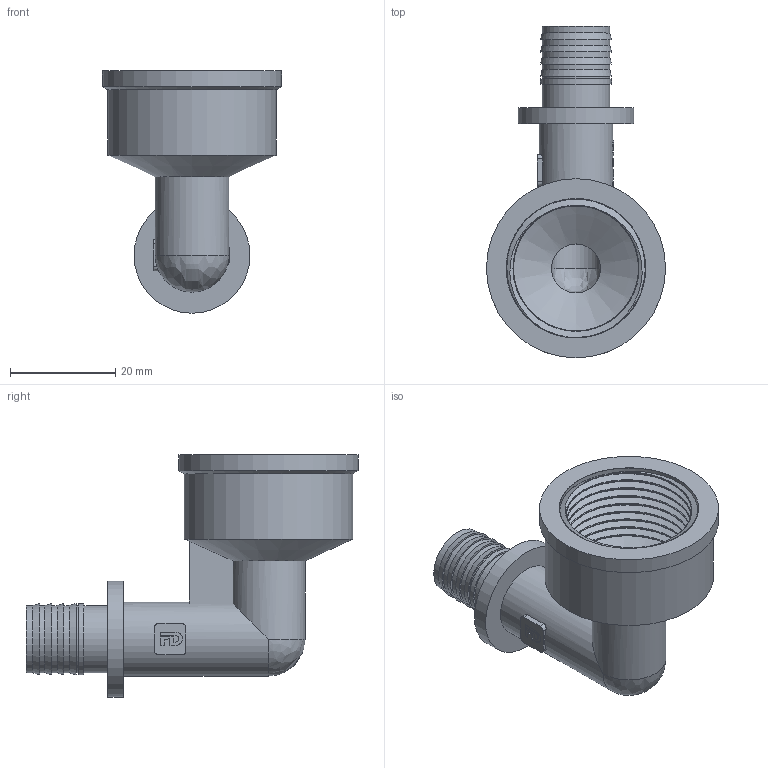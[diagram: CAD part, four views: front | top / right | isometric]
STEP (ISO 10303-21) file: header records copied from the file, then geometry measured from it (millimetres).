
FILE_DESCRIPTION(/* description */ (''),/* implementation_level */ '2;1');
FILE_NAME(/* name */ 'C:\Users\Doom\Desktop\Фадотех\Натяжка\SFU22_NEW 16x0.75F 29.05.2020\SFU22_NEW 16x0.75F 29.05.2020.stp',/* time_stamp */ '2022-07-26T14:16:18+03:00',/* author */ ('Doom'),/* organization */ (''),/* preprocessor_version */ 'ST-DEVELOPER v18',/* originating_system */ 'Autodesk Inventor 2020',/* authorisation */ '');
FILE_SCHEMA (('AUTOMOTIVE_DESIGN { 1 0 10303 214 3 1 1 }'));
Length unit declared in the file: millimetre
Products named in the file (1): FD-SFU11NEW 16X0.5M 18.12.2019
Bounding box: 34 x 63 x 46 mm (x, y, z)
Volume: 13160.1 mm3; surface area: 13649.4 mm2
Topology: 3 solids, 3 shells, 185 faces, 525 edges, 352 vertices
Faces by surface type: bspline 71, plane 70, cylinder 37, cone 7
Full cylindrical faces by diameter (mm): 9.3 x2, 12.8 x6, 13.5 x1, 14 x1, 22 x1, 23.75 x9, 26.44 x2, 32 x1, 34 x1
Entity records: 11968 total; most frequent: CARTESIAN_POINT 7584, ORIENTED_EDGE 1034, DIRECTION 688, EDGE_CURVE 517, VERTEX_POINT 350, LINE 230, VECTOR 230, AXIS2_PLACEMENT_3D 229
